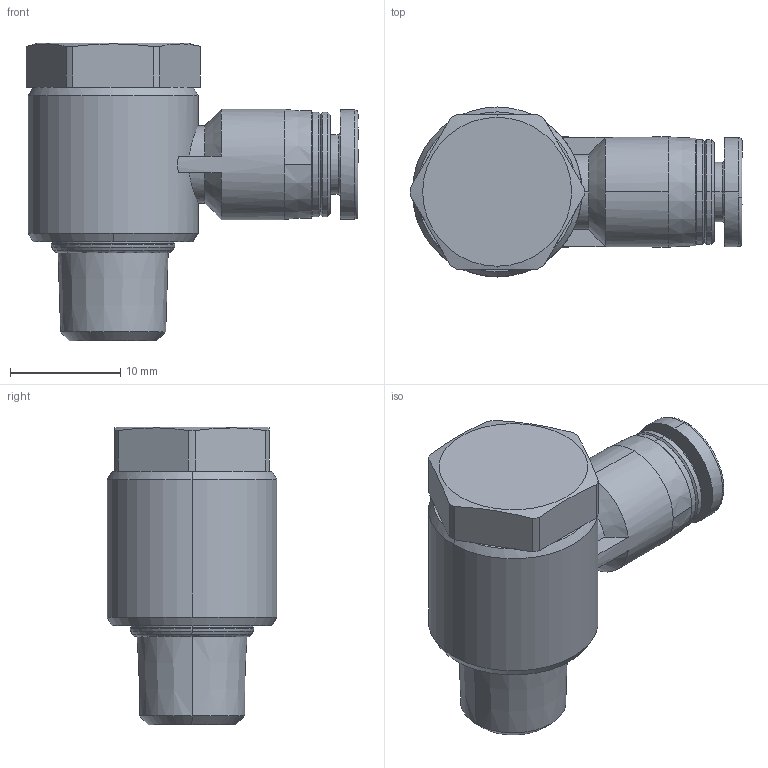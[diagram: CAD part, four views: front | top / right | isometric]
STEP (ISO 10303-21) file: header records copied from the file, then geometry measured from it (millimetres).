
FILE_DESCRIPTION (( 'STEP AP214' ), '1' );
FILE_NAME ('APH4-01.STEP', '2019-12-05T03:44:05', ( '微软用户' ), ( '微软中国' ), 'SwSTEP 2.0', 'SolidWorks 2016', '' );
FILE_SCHEMA (( 'AUTOMOTIVE_DESIGN' ));
Length unit declared in the file: millimetre
Products named in the file (1): APH4-01
Bounding box: 30.1 x 15.4 x 27 mm (x, y, z)
Volume: 4786 mm3; surface area: 2263.7 mm2
Topology: 1 solids, 1 shells, 94 faces, 222 edges, 137 vertices
Faces by surface type: plane 32, cylinder 28, cone 26, bspline 8
Entity records: 3060 total; most frequent: CARTESIAN_POINT 853, DIRECTION 483, ORIENTED_EDGE 444, EDGE_CURVE 222, AXIS2_PLACEMENT_3D 200, VERTEX_POINT 137, CIRCLE 113, EDGE_LOOP 101
